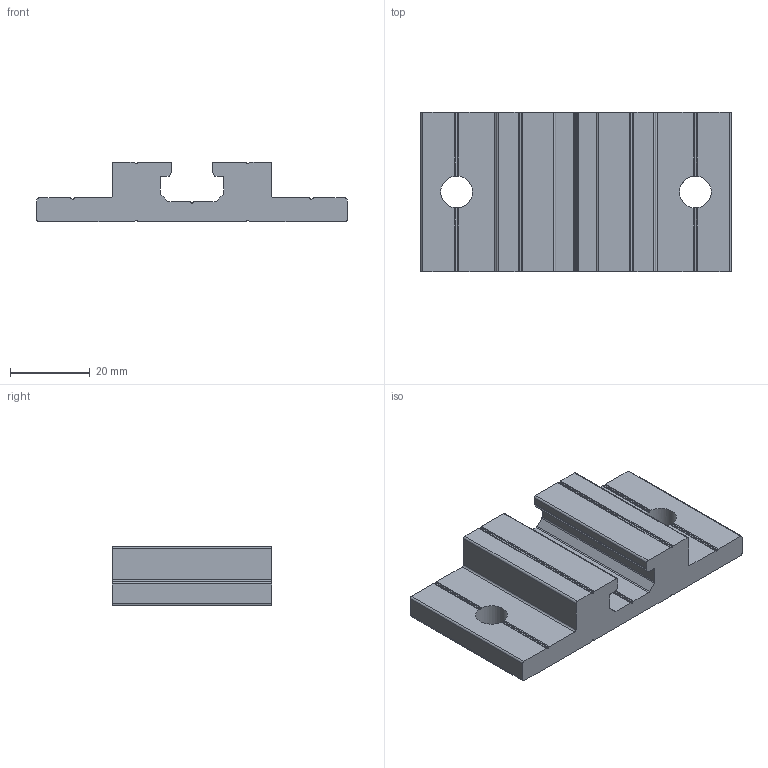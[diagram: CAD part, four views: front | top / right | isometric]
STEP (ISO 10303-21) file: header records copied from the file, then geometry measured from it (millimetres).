
FILE_DESCRIPTION(('STEP AP214'),'1');
FILE_NAME('BF4T-L40.stp','2017-07-26T06:53:55',(' '),(' '),'Spatial InterOp 3D',' ',' ');
FILE_SCHEMA(('automotive_design'));
Length unit declared in the file: millimetre
Products named in the file (1): BF4T-L40
Bounding box: 78 x 40 x 15 mm (x, y, z)
Volume: 27030.7 mm3; surface area: 9995.1 mm2
Topology: 1 solids, 1 shells, 96 faces, 288 edges, 192 vertices
Faces by surface type: cylinder 49, plane 47
Full cylindrical faces by diameter (mm): 8 x2
Entity records: 4052 total; most frequent: CARTESIAN_POINT 615, ORIENTED_EDGE 568, DIRECTION 562, EDGE_CURVE 284, AXIS2_PLACEMENT_3D 193, VERTEX_POINT 190, LINE 176, VECTOR 176
